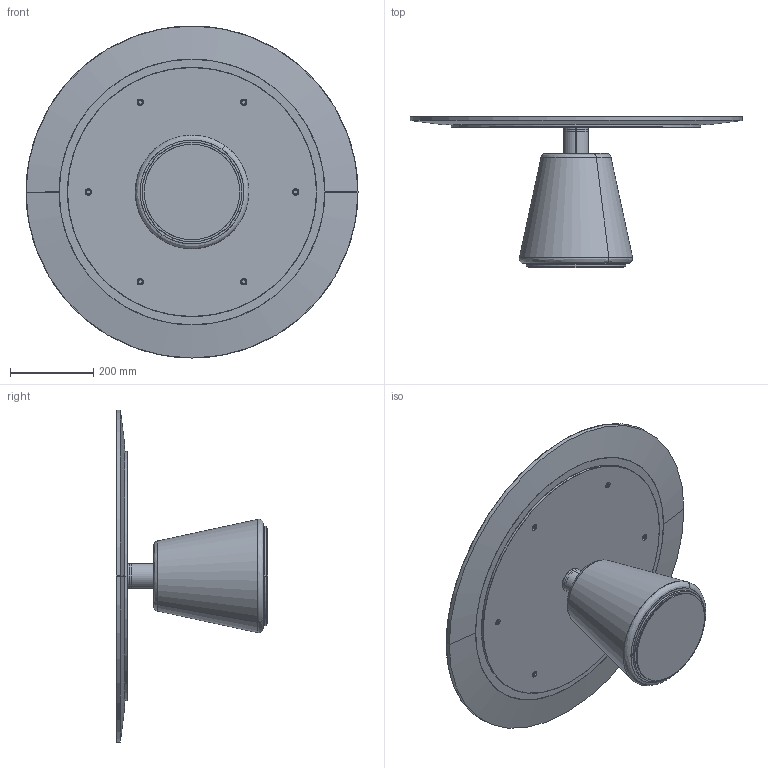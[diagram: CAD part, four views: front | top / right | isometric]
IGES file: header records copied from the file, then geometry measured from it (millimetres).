
Start section: SolidWorks IGES file using analytic representation for surfaces
Global section: file name: C:\Users\SoldaClaudio\Desktop\MENHIR\3D\004223.IGS; native system: SolidWorks 2019; preprocessor: SolidWorks 2019; author: SoldaClaudio; date: 201218.104448; units: millimetre
Bounding box: 800 x 365 x 800 mm (x, y, z)
Surface area: 2264437.9 mm2 (no closed solid volume)
Topology: 0 solids, 0 shells, 310 faces, 5374 edges, 5374 vertices
Faces by surface type: bspline 172, revolution 138
